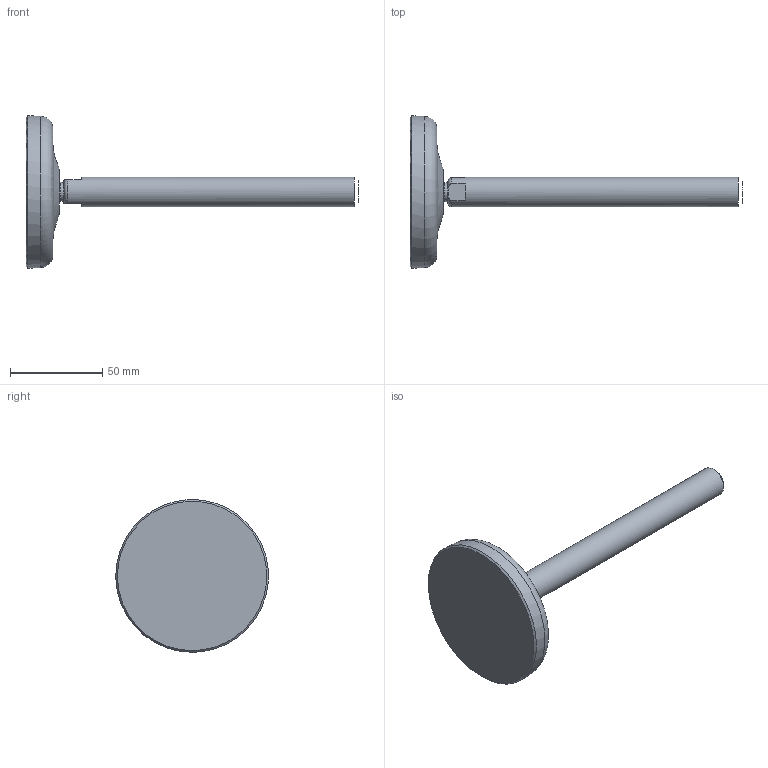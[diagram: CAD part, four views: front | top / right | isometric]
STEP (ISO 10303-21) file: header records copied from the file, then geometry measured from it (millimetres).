
FILE_DESCRIPTION(/* description */ ('STEP AP203'),/* implementation_level */ '2;1');
FILE_NAME(/* name */ '\\NAS-MODULA\Backup-nas\Pubblica\DISEGNI 2017\1. LINEA PLASTICA\DISEGNI 3D\D83 BASSO\18078\18078.stp',/* time_stamp */ '2018-12-20T10:55:48+01:00',/* author */ ('Martin'),/* organization */ (''),/* preprocessor_version */ 'ST-DEVELOPER v17',/* originating_system */ 'Autodesk Inventor 2018',/* authorisation */ '');
FILE_SCHEMA (('AUTOMOTIVE_DESIGN { 1 0 10303 214 3 1 1 }'));
Length unit declared in the file: millimetre
Products named in the file (1): 18078
Bounding box: 180.1 x 82.73 x 82.82 mm (x, y, z)
Volume: 110248.6 mm3; surface area: 22184.6 mm2
Topology: 3 solids, 3 shells, 21 faces, 44 edges, 31 vertices
Faces by surface type: plane 11, cone 3, torus 2, bspline 2, cylinder 2, sphere 1
Full cylindrical faces by diameter (mm): 10.292 x1, 16 x1
Entity records: 986 total; most frequent: CARTESIAN_POINT 439, DIRECTION 111, ORIENTED_EDGE 88, AXIS2_PLACEMENT_3D 50, EDGE_CURVE 44, VERTEX_POINT 31, CIRCLE 30, EDGE_LOOP 23
